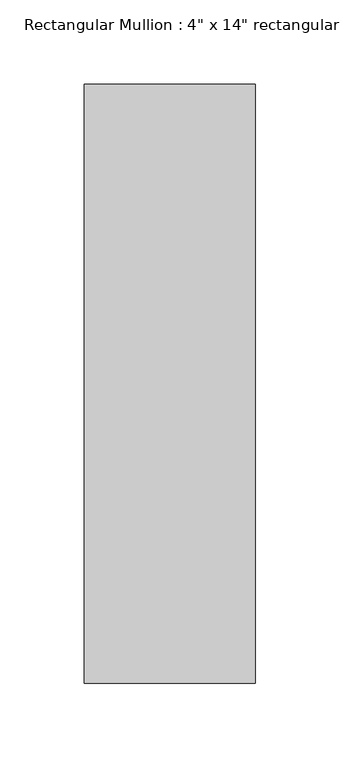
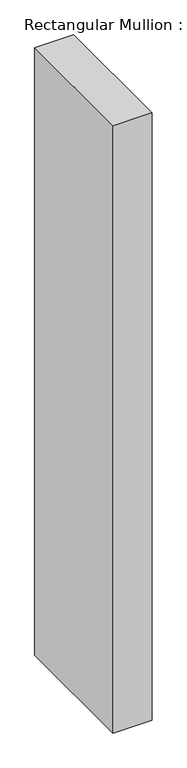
"""IFC4 building model written with IfcOpenShell, lengths in millimetres: member geometry."""

from ifc_helpers import new_model, si_unit, frame, origin, place, context, project, spatial, polyline, outline, extrude, source, transform, mapped, element, save


def member_60217e3f(model_context):
    return source(origin(), model_context, "Body", "SweptSolid", [
        extrude(outline(polyline([(50.8, 342.9), (50.8, -12.7), (-50.8, -12.7), (-50.8, 342.9), (50.8, 342.9)])), frame((0.0, 0.0, -1679.1980741), z_axis=(0.0, 0.0, 1.0), x_axis=(1.0, 0.0, 0.0)), (0.0, 0.0, 1.0), 1679.1980741),
    ])


if __name__ == "__main__":
    model = new_model("IFC4")
    model_context = context("Model", 3, world=origin())
    ifc_project = project(units=[si_unit("LENGTHUNIT", "METRE", prefix="MILLI")], contexts=[model_context])
    site = spatial("IfcSite", under=ifc_project)
    building = spatial("IfcBuilding", under=site)
    placement = place(None, origin())
    member_shape = member_60217e3f(model_context)
    element("IfcMember", 1, ObjectType="Rectangular Mullion : 4\" x 14\" rectangular", at=placement, inside=building, context=model_context, shape_type="MappedRepresentation", body=[
        mapped(member_shape, transform((0.0, 0.0, 0.0), x_axis=(1.0, 0.0, 0.0), y_axis=(0.0, 1.0, 0.0), z_axis=(0.0, 0.0, 1.0))),
    ])
    save(model, "model.ifc")
